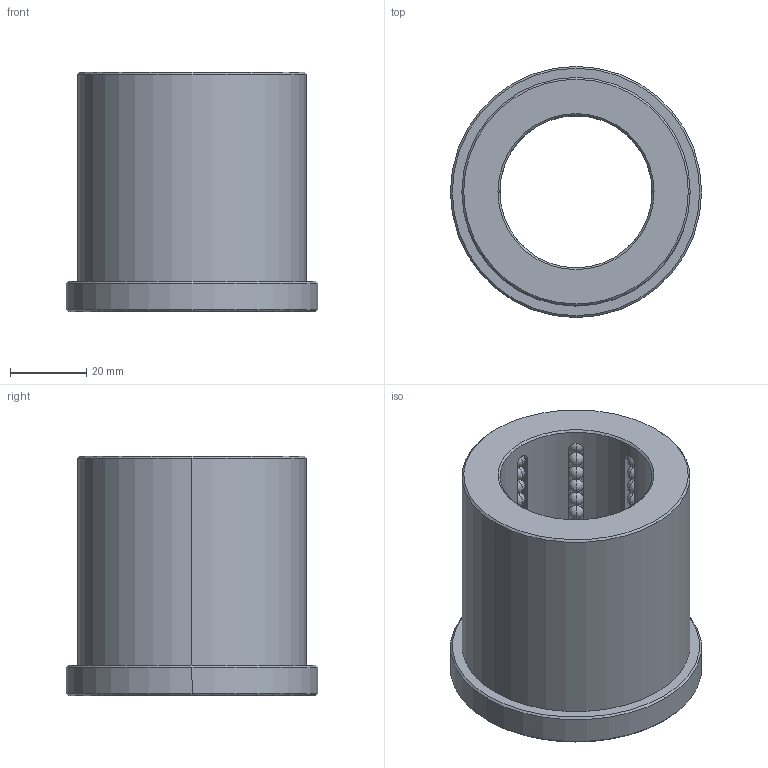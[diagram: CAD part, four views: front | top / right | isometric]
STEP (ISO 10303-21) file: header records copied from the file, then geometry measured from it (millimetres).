
FILE_DESCRIPTION(('CATIA V5 STEP Exchange'),'2;1');
FILE_NAME('C:\Users\Utente\Desktop\3D files B801\B8014063.stp','2020-04-19T12:24:30+00:00',('none'),('none'),'CATIA Version 5 Release 20 GA (IN-10)','CATIA V5 STEP AP203','none');
FILE_SCHEMA(('CONFIG_CONTROL_DESIGN'));
Length unit declared in the file: millimetre
Products named in the file (1): B8014063
Bounding box: 66 x 66 x 63 mm (x, y, z)
Volume: 100330.1 mm3; surface area: 32877.4 mm2
Topology: 105 solids, 105 shells, 485 faces, 1418 edges, 318 vertices
Faces by surface type: sphere 416, plane 27, cylinder 22, cone 20
Entity records: 9260 total; most frequent: CARTESIAN_POINT 1816, DIRECTION 1526, ORIENTED_EDGE 1172, AXIS2_PLACEMENT_3D 950, EDGE_CURVE 586, EDGE_LOOP 494, ADVANCED_FACE 485, FACE_OUTER_BOUND 485
